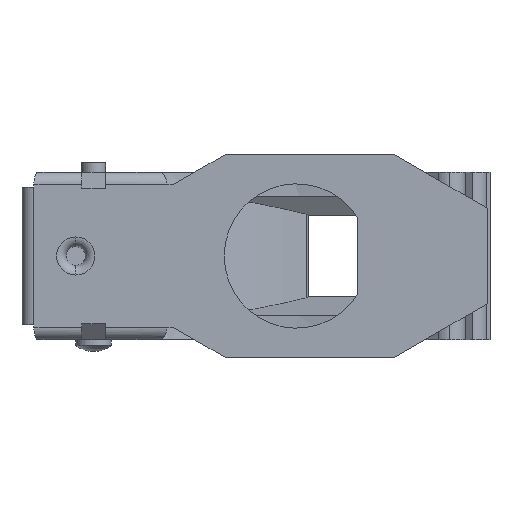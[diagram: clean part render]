
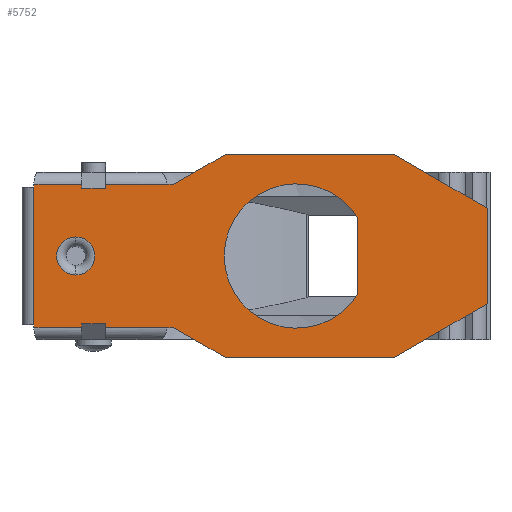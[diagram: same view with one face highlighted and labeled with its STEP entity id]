
A CAD part, front view. The second image highlights one B-rep face of the part: STEP entity #5752.
In plain terms, the highlighted planar face has unit normal (0, -1, 0).
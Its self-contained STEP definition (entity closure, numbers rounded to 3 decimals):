
#1437=CARTESIAN_POINT('',(-10.885,0.,6.));
#1448=DIRECTION('',(0.,0.,-1.));
#1449=VECTOR('',#1448,0.332);
#1450=CARTESIAN_POINT('',(-18.,0.,6.));
#1451=LINE('',#1450,#1449);
#1452=DIRECTION('',(1.,0.,0.));
#1453=VECTOR('',#1452,2.);
#1454=CARTESIAN_POINT('',(-18.,0.,5.668));
#1455=LINE('',#1454,#1453);
#1456=DIRECTION('',(0.,0.,-1.));
#1457=VECTOR('',#1456,0.332);
#1458=CARTESIAN_POINT('',(-16.,0.,6.));
#1459=LINE('',#1458,#1457);
#1460=DIRECTION('',(1.,0.,0.));
#1461=VECTOR('',#1460,5.115);
#1462=CARTESIAN_POINT('',(-16.,0.,6.));
#1463=LINE('',#1462,#1461);
#1464=DIRECTION('',(1.,0.,0.));
#1465=VECTOR('',#1464,0.585);
#1466=CARTESIAN_POINT('',(-10.885,0.,6.));
#1467=LINE('',#1466,#1465);
#1468=DIRECTION('',(0.866,0.,0.5));
#1469=VECTOR('',#1468,5.);
#1470=CARTESIAN_POINT('',(-10.3,0.,6.));
#1471=LINE('',#1470,#1469);
#1472=DIRECTION('',(1.,0.,0.));
#1473=VECTOR('',#1472,14.176);
#1474=CARTESIAN_POINT('',(-5.97,0.,8.5));
#1475=LINE('',#1474,#1473);
#1476=DIRECTION('',(0.866,0.,-0.5));
#1477=VECTOR('',#1476,9.);
#1478=CARTESIAN_POINT('',(8.206,0.,8.5));
#1479=LINE('',#1478,#1477);
#1480=DIRECTION('',(0.,0.,-1.));
#1481=VECTOR('',#1480,8.);
#1482=CARTESIAN_POINT('',(16.,0.,4.));
#1483=LINE('',#1482,#1481);
#1484=DIRECTION('',(-0.866,0.,-0.5));
#1485=VECTOR('',#1484,9.);
#1486=CARTESIAN_POINT('',(16.,0.,-4.));
#1487=LINE('',#1486,#1485);
#1488=DIRECTION('',(-1.,0.,0.));
#1489=VECTOR('',#1488,14.176);
#1490=CARTESIAN_POINT('',(8.206,0.,-8.5));
#1491=LINE('',#1490,#1489);
#1492=DIRECTION('',(-0.866,0.,0.5));
#1493=VECTOR('',#1492,5.);
#1494=CARTESIAN_POINT('',(-5.97,0.,-8.5));
#1495=LINE('',#1494,#1493);
#1496=DIRECTION('',(-1.,0.,0.));
#1497=VECTOR('',#1496,0.585);
#1498=CARTESIAN_POINT('',(-10.3,0.,-6.));
#1499=LINE('',#1498,#1497);
#1500=DIRECTION('',(-1.,0.,0.));
#1501=VECTOR('',#1500,5.115);
#1502=CARTESIAN_POINT('',(-10.885,0.,-6.));
#1503=LINE('',#1502,#1501);
#1504=DIRECTION('',(0.,0.,-1.));
#1505=VECTOR('',#1504,0.332);
#1506=CARTESIAN_POINT('',(-16.,0.,-5.668));
#1507=LINE('',#1506,#1505);
#1508=DIRECTION('',(1.,0.,0.));
#1509=VECTOR('',#1508,2.);
#1510=CARTESIAN_POINT('',(-18.,0.,-5.668));
#1511=LINE('',#1510,#1509);
#1512=DIRECTION('',(0.,0.,-1.));
#1513=VECTOR('',#1512,0.332);
#1514=CARTESIAN_POINT('',(-18.,0.,-5.668));
#1515=LINE('',#1514,#1513);
#1516=DIRECTION('',(-1.,0.,0.));
#1517=VECTOR('',#1516,4.);
#1518=CARTESIAN_POINT('',(-18.,0.,-6.));
#1519=LINE('',#1518,#1517);
#1520=DIRECTION('',(0.,0.,1.));
#1521=VECTOR('',#1520,0.25);
#1522=CARTESIAN_POINT('',(-22.,0.,-6.));
#1523=LINE('',#1522,#1521);
#1524=DIRECTION('',(0.,0.,1.));
#1525=VECTOR('',#1524,11.5);
#1526=CARTESIAN_POINT('',(-22.,0.,-5.75));
#1527=LINE('',#1526,#1525);
#1528=DIRECTION('',(0.,0.,1.));
#1529=VECTOR('',#1528,0.25);
#1530=CARTESIAN_POINT('',(-22.,0.,5.75));
#1531=LINE('',#1530,#1529);
#1532=DIRECTION('',(1.,0.,0.));
#1533=VECTOR('',#1532,4.);
#1534=CARTESIAN_POINT('',(-22.,0.,6.));
#1535=LINE('',#1534,#1533);
#1536=DIRECTION('',(0.,0.,1.));
#1537=VECTOR('',#1536,6.509);
#1538=CARTESIAN_POINT('',(5.1,0.,-3.255));
#1539=LINE('',#1538,#1537);
#1540=CARTESIAN_POINT('',(0.,0.,0.));
#1541=DIRECTION('',(0.,-1.,0.));
#1542=DIRECTION('',(0.843,0.,0.538));
#1543=AXIS2_PLACEMENT_3D('',#1540,#1541,#1542);
#1545=CARTESIAN_POINT('',(-18.5,0.,0.));
#1546=DIRECTION('',(0.,1.,0.));
#1547=DIRECTION('',(0.,0.,-1.));
#1548=AXIS2_PLACEMENT_3D('',#1545,#1546,#1547);
#1550=CARTESIAN_POINT('',(-18.5,0.,0.));
#1551=DIRECTION('',(0.,1.,0.));
#1552=DIRECTION('',(0.,0.,1.));
#1553=AXIS2_PLACEMENT_3D('',#1550,#1551,#1552);
#1648=CARTESIAN_POINT('',(-10.885,0.,-6.));
#3565=CARTESIAN_POINT('',(5.1,0.,-3.255));
#3566=CARTESIAN_POINT('',(5.1,0.,3.255));
#3567=VERTEX_POINT('',#3565);
#3568=VERTEX_POINT('',#3566);
#3569=CARTESIAN_POINT('',(16.,0.,4.));
#3570=CARTESIAN_POINT('',(16.,0.,-4.));
#3571=VERTEX_POINT('',#3569);
#3572=VERTEX_POINT('',#3570);
#3573=CARTESIAN_POINT('',(8.206,0.,-8.5));
#3574=VERTEX_POINT('',#3573);
#3575=CARTESIAN_POINT('',(-5.97,0.,-8.5));
#3576=VERTEX_POINT('',#3575);
#3577=CARTESIAN_POINT('',(-10.3,0.,-6.));
#3578=VERTEX_POINT('',#3577);
#3579=CARTESIAN_POINT('',(-10.3,0.,6.));
#3580=CARTESIAN_POINT('',(-5.97,0.,8.5));
#3581=VERTEX_POINT('',#3579);
#3582=VERTEX_POINT('',#3580);
#3583=CARTESIAN_POINT('',(8.206,0.,8.5));
#3584=VERTEX_POINT('',#3583);
#3635=CARTESIAN_POINT('',(-22.,0.,6.));
#3636=VERTEX_POINT('',#3635);
#3663=CARTESIAN_POINT('',(-22.,0.,-6.));
#3664=VERTEX_POINT('',#3663);
#3686=VERTEX_POINT('',#1437);
#3689=CARTESIAN_POINT('',(-22.,0.,5.75));
#3691=VERTEX_POINT('',#3689);
#3692=CARTESIAN_POINT('',(-22.,0.,-5.75));
#3693=VERTEX_POINT('',#3692);
#3697=VERTEX_POINT('',#1648);
#3727=CARTESIAN_POINT('',(-18.,0.,6.));
#3728=CARTESIAN_POINT('',(-18.,0.,5.668));
#3729=VERTEX_POINT('',#3727);
#3730=VERTEX_POINT('',#3728);
#3731=CARTESIAN_POINT('',(-18.,0.,-5.668));
#3732=CARTESIAN_POINT('',(-18.,0.,-6.));
#3733=VERTEX_POINT('',#3731);
#3734=VERTEX_POINT('',#3732);
#3735=CARTESIAN_POINT('',(-16.,0.,6.));
#3736=CARTESIAN_POINT('',(-16.,0.,5.668));
#3737=VERTEX_POINT('',#3735);
#3738=VERTEX_POINT('',#3736);
#3739=CARTESIAN_POINT('',(-16.,0.,-5.668));
#3740=CARTESIAN_POINT('',(-16.,0.,-6.));
#3741=VERTEX_POINT('',#3739);
#3742=VERTEX_POINT('',#3740);
#3809=CARTESIAN_POINT('',(-18.5,0.,-1.6));
#3810=CARTESIAN_POINT('',(-18.5,0.,1.6));
#3811=VERTEX_POINT('',#3809);
#3812=VERTEX_POINT('',#3810);
#5691=CARTESIAN_POINT('',(0.,0.,0.));
#5692=DIRECTION('',(0.,1.,0.));
#5693=DIRECTION('',(1.,0.,0.));
#5694=AXIS2_PLACEMENT_3D('',#5691,#5692,#5693);
#5695=PLANE('',#5694);
#5697=ORIENTED_EDGE('',*,*,#5696,.T.);
#5699=ORIENTED_EDGE('',*,*,#5698,.T.);
#5700=ORIENTED_EDGE('',*,*,#5681,.F.);
#5701=ORIENTED_EDGE('',*,*,#5671,.T.);
#5703=ORIENTED_EDGE('',*,*,#5702,.T.);
#5705=ORIENTED_EDGE('',*,*,#5704,.T.);
#5707=ORIENTED_EDGE('',*,*,#5706,.T.);
#5709=ORIENTED_EDGE('',*,*,#5708,.T.);
#5711=ORIENTED_EDGE('',*,*,#5710,.T.);
#5713=ORIENTED_EDGE('',*,*,#5712,.T.);
#5715=ORIENTED_EDGE('',*,*,#5714,.T.);
#5717=ORIENTED_EDGE('',*,*,#5716,.T.);
#5719=ORIENTED_EDGE('',*,*,#5718,.T.);
#5721=ORIENTED_EDGE('',*,*,#5720,.T.);
#5723=ORIENTED_EDGE('',*,*,#5722,.F.);
#5725=ORIENTED_EDGE('',*,*,#5724,.F.);
#5727=ORIENTED_EDGE('',*,*,#5726,.T.);
#5729=ORIENTED_EDGE('',*,*,#5728,.T.);
#5731=ORIENTED_EDGE('',*,*,#5730,.T.);
#5733=ORIENTED_EDGE('',*,*,#5732,.T.);
#5735=ORIENTED_EDGE('',*,*,#5734,.T.);
#5737=ORIENTED_EDGE('',*,*,#5736,.T.);
#5738=EDGE_LOOP('',(#5697,#5699,#5700,#5701,#5703,#5705,#5707,#5709,#5711,#5713,
#5715,#5717,#5719,#5721,#5723,#5725,#5727,#5729,#5731,#5733,#5735,#5737));
#5739=FACE_OUTER_BOUND('',#5738,.F.);
#5741=ORIENTED_EDGE('',*,*,#5740,.T.);
#5743=ORIENTED_EDGE('',*,*,#5742,.T.);
#5744=EDGE_LOOP('',(#5741,#5743));
#5745=FACE_BOUND('',#5744,.F.);
#5747=ORIENTED_EDGE('',*,*,#5746,.F.);
#5749=ORIENTED_EDGE('',*,*,#5748,.F.);
#5750=EDGE_LOOP('',(#5747,#5749));
#5751=FACE_BOUND('',#5750,.F.);
#1544=CIRCLE('',#1543,6.05);
#1549=CIRCLE('',#1548,1.6);
#1554=CIRCLE('',#1553,1.6);
#5671=EDGE_CURVE('',#3737,#3686,#1463,.T.);
#5681=EDGE_CURVE('',#3737,#3738,#1459,.T.);
#5696=EDGE_CURVE('',#3729,#3730,#1451,.T.);
#5698=EDGE_CURVE('',#3730,#3738,#1455,.T.);
#5702=EDGE_CURVE('',#3686,#3581,#1467,.T.);
#5704=EDGE_CURVE('',#3581,#3582,#1471,.T.);
#5706=EDGE_CURVE('',#3582,#3584,#1475,.T.);
#5708=EDGE_CURVE('',#3584,#3571,#1479,.T.);
#5710=EDGE_CURVE('',#3571,#3572,#1483,.T.);
#5712=EDGE_CURVE('',#3572,#3574,#1487,.T.);
#5714=EDGE_CURVE('',#3574,#3576,#1491,.T.);
#5716=EDGE_CURVE('',#3576,#3578,#1495,.T.);
#5718=EDGE_CURVE('',#3578,#3697,#1499,.T.);
#5720=EDGE_CURVE('',#3697,#3742,#1503,.T.);
#5722=EDGE_CURVE('',#3741,#3742,#1507,.T.);
#5724=EDGE_CURVE('',#3733,#3741,#1511,.T.);
#5726=EDGE_CURVE('',#3733,#3734,#1515,.T.);
#5728=EDGE_CURVE('',#3734,#3664,#1519,.T.);
#5730=EDGE_CURVE('',#3664,#3693,#1523,.T.);
#5732=EDGE_CURVE('',#3693,#3691,#1527,.T.);
#5734=EDGE_CURVE('',#3691,#3636,#1531,.T.);
#5736=EDGE_CURVE('',#3636,#3729,#1535,.T.);
#5740=EDGE_CURVE('',#3567,#3568,#1539,.T.);
#5742=EDGE_CURVE('',#3568,#3567,#1544,.T.);
#5746=EDGE_CURVE('',#3811,#3812,#1549,.T.);
#5748=EDGE_CURVE('',#3812,#3811,#1554,.T.);
#5752=ADVANCED_FACE('',(#5739,#5745,#5751),#5695,.F.);
